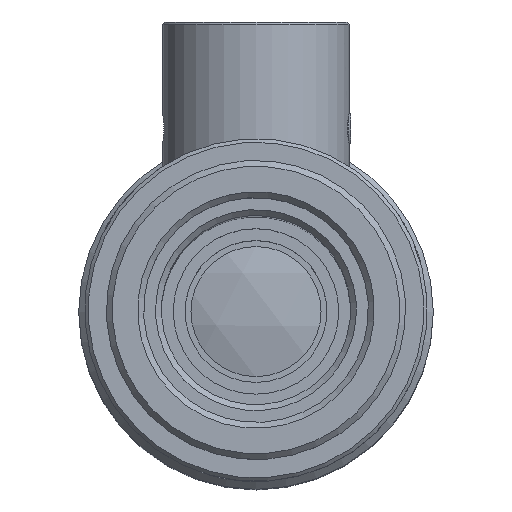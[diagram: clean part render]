
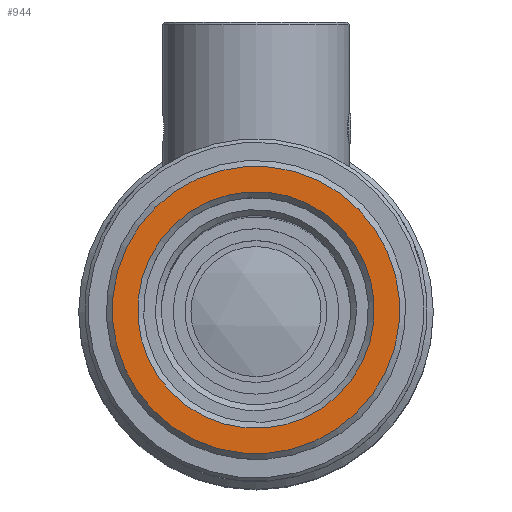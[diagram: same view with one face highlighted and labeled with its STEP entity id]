
A CAD part, top view. The second image highlights one B-rep face of the part: STEP entity #944.
In plain terms, the highlighted planar face has unit normal (0, 0, 1).
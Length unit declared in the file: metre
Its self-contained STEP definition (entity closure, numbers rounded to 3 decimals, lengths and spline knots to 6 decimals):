
#944=ADVANCED_FACE('NONE',(#2081,#2082),#2083,.F.);
#2081=FACE_BOUND('',#3543,.T.);
#2082=FACE_OUTER_BOUND('',#3544,.T.);
#2083=PLANE('',#3545);
#3543=EDGE_LOOP('',(#6127));
#3544=EDGE_LOOP('',(#6128));
#3545=AXIS2_PLACEMENT_3D('',#6129,#6130,#6131);
#6127=ORIENTED_EDGE('',*,*,#7852,.T.);
#6128=ORIENTED_EDGE('',*,*,#7847,.T.);
#6129=CARTESIAN_POINT('',(0.001289,0.012594,0.03395));
#6130=DIRECTION('',(0.,0.0,-1.0));
#6131=DIRECTION('',(-0.995,0.102,0.));
#7847=EDGE_CURVE('NONE',#9352,#9352,#9353,.T.);
#7852=EDGE_CURVE('NONE',#9360,#9360,#9361,.T.);
#9352=VERTEX_POINT('',#11746);
#9353=CIRCLE('',#11747,0.01216);
#9360=VERTEX_POINT('',#11754);
#9361=CIRCLE('',#11755,0.01001);
#11746=CARTESIAN_POINT('',(-0.012097,0.001238,0.03395));
#11747=AXIS2_PLACEMENT_3D('',#13419,#13420,#13421);
#11754=CARTESIAN_POINT('',(-0.009958,0.001019,0.03395));
#11755=AXIS2_PLACEMENT_3D('',#13428,#13429,#13430);
#13419=CARTESIAN_POINT('',(0.,0.,0.03395));
#13420=DIRECTION('',(0.,0.,1.0));
#13421=DIRECTION('',(-0.995,0.102,0.));
#13428=CARTESIAN_POINT('',(0.,0.,0.03395));
#13429=DIRECTION('',(0.,0.0,-1.0));
#13430=DIRECTION('',(-0.995,0.102,0.));
